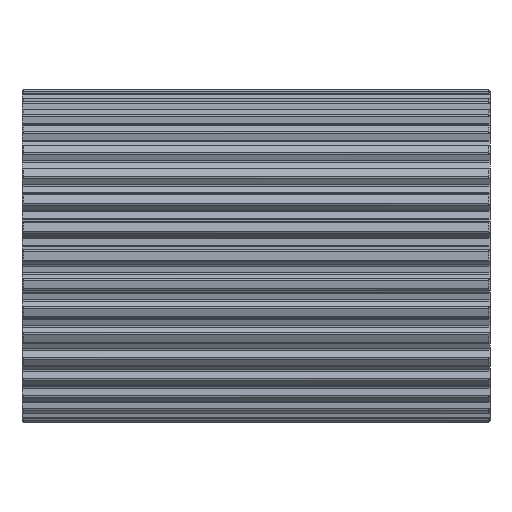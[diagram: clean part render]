
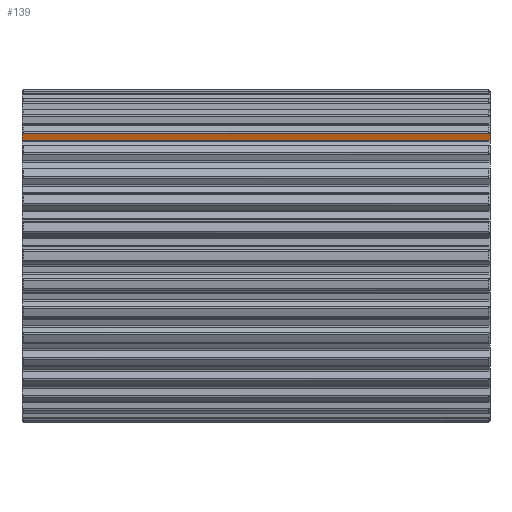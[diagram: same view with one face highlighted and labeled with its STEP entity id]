
A CAD part, top view. The second image highlights one B-rep face of the part: STEP entity #139.
In plain terms, the highlighted planar face has unit normal (0, -0.259, 0.966).
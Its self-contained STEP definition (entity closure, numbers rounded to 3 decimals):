
#139=ADVANCED_FACE('',(#611),#612,.T.);
#611=FACE_OUTER_BOUND('',#1369,.T.);
#612=PLANE('',#1370);
#1369=EDGE_LOOP('',(#2688,#2689,#2690,#2691,#2692,#2693));
#1370=AXIS2_PLACEMENT_3D('',#2694,#2695,#2696);
#2688=ORIENTED_EDGE('',*,*,#5412,.T.);
#2689=ORIENTED_EDGE('',*,*,#5685,.F.);
#2690=ORIENTED_EDGE('',*,*,#5686,.T.);
#2691=ORIENTED_EDGE('',*,*,#5687,.T.);
#2692=ORIENTED_EDGE('',*,*,#5688,.T.);
#2693=ORIENTED_EDGE('',*,*,#5683,.F.);
#2694=CARTESIAN_POINT('',(0.0,40.657,37.48));
#2695=DIRECTION('',(0.,-0.259,0.966));
#2696=DIRECTION('',(0.,-0.966,-0.259));
#5412=EDGE_CURVE('',#6623,#6621,#6624,.T.);
#5683=EDGE_CURVE('',#6623,#7123,#7124,.T.);
#5685=EDGE_CURVE('',#7126,#6621,#7127,.T.);
#5686=EDGE_CURVE('',#7126,#7128,#7129,.T.);
#5687=EDGE_CURVE('',#7128,#7130,#7131,.T.);
#5688=EDGE_CURVE('',#7130,#7123,#7132,.T.);
#6621=VERTEX_POINT('',#8927);
#6623=VERTEX_POINT('',#8929);
#6624=(B_SPLINE_CURVE(2,(#8931,#8932,#8933),.UNSPECIFIED.,.F.,.F.)B_SPLINE_CURVE_WITH_KNOTS((3,3),(0.0,0.752),.UNSPECIFIED.)RATIONAL_B_SPLINE_CURVE((1.0,1.,1.0))BOUNDED_CURVE()REPRESENTATION_ITEM('')GEOMETRIC_REPRESENTATION_ITEM()CURVE());
#7123=VERTEX_POINT('',#10643);
#7124=LINE('',#10644,#10645);
#7126=VERTEX_POINT('',#10656);
#7127=LINE('',#10657,#10658);
#7128=VERTEX_POINT('',#10659);
#7129=LINE('',#10660,#10661);
#7130=VERTEX_POINT('',#10662);
#7131=LINE('',#10663,#10664);
#7132=(B_SPLINE_CURVE(2,(#10666,#10667,#10668),.UNSPECIFIED.,.F.,.F.)B_SPLINE_CURVE_WITH_KNOTS((3,3),(0.0,0.752),.UNSPECIFIED.)RATIONAL_B_SPLINE_CURVE((1.0,1.,1.0))BOUNDED_CURVE()REPRESENTATION_ITEM('')GEOMETRIC_REPRESENTATION_ITEM()CURVE());
#8927=CARTESIAN_POINT('',(0.0,41.743,37.771));
#8929=CARTESIAN_POINT('',(0.076,41.825,37.793));
#8931=CARTESIAN_POINT('',(0.5,42.285,37.916));
#8932=CARTESIAN_POINT('',(0.249,42.013,37.843));
#8933=CARTESIAN_POINT('',(0.0,41.743,37.771));
#10643=CARTESIAN_POINT('',(159.924,41.825,37.793));
#10644=CARTESIAN_POINT('',(0.0,41.825,37.793));
#10645=VECTOR('',#13593,1.0);
#10656=CARTESIAN_POINT('',(0.0,39.49,37.167));
#10657=CARTESIAN_POINT('',(0.0,39.49,37.167));
#10658=VECTOR('',#13594,1.);
#10659=CARTESIAN_POINT('',(160.0,39.49,37.167));
#10660=CARTESIAN_POINT('',(0.0,39.49,37.167));
#10661=VECTOR('',#13595,1.0);
#10662=CARTESIAN_POINT('',(160.0,41.743,37.771));
#10663=CARTESIAN_POINT('',(160.0,39.49,37.167));
#10664=VECTOR('',#13596,1.);
#10666=CARTESIAN_POINT('',(160.0,41.743,37.771));
#10667=CARTESIAN_POINT('',(159.751,42.013,37.843));
#10668=CARTESIAN_POINT('',(159.5,42.285,37.916));
#13593=DIRECTION('',(1.0,0.,0.));
#13594=DIRECTION('',(0.,0.966,0.259));
#13595=DIRECTION('',(1.0,0.,0.));
#13596=DIRECTION('',(0.,0.966,0.259));
